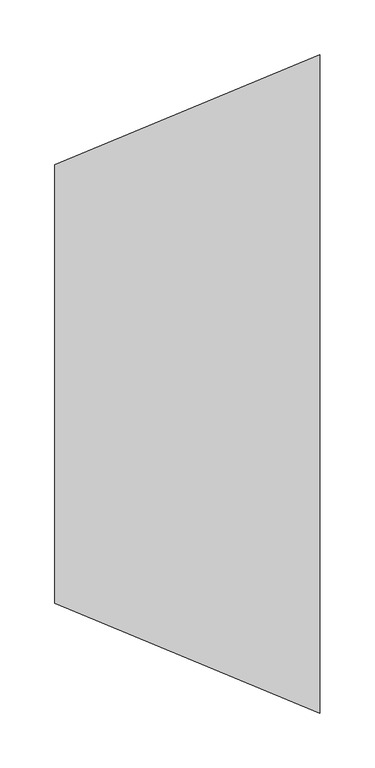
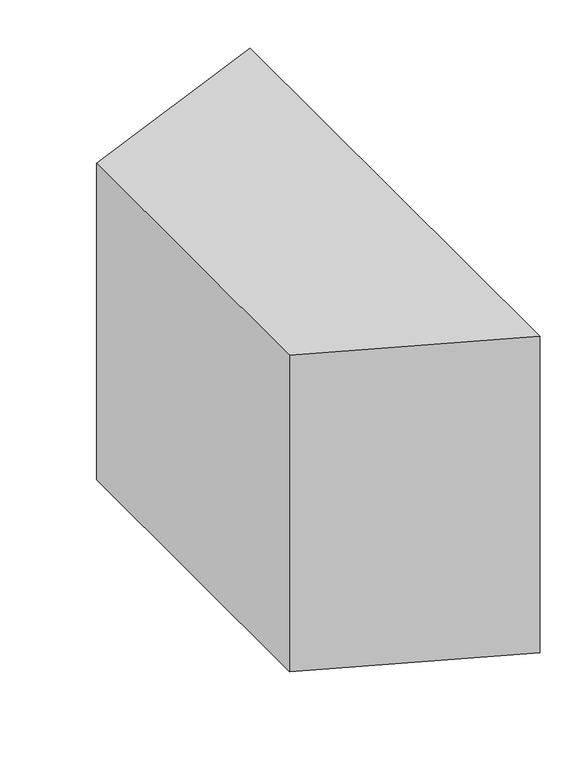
"""IFC4 building model written with IfcOpenShell, lengths in millimetres: duct fitting geometry, M_Transição retangular - Ângulo : 45 Graus."""

import ifcopenshell
import ifcopenshell.guid

model = None  # the IFC model being written
_history = None  # IfcOwnerHistory: only IFC2X3 demands one
_inside = {}  # id of a spatial element -> (the spatial element, [elements in it])
_under = {}  # id of a project, library or spatial element -> (it, [spatial elements below it])
_declared = {}  # id of a project -> (the project, [libraries it declares])
_typed = {}  # id of a type object -> (the type object, [elements of that type])
_made_of = {}  # id of a material, layer set ... -> (it, [elements and type objects made of it])


def new_model(schema):
    """Start an empty IFC model of exactly this schema.

    Asked for "IFC4X3", IfcOpenShell would pick the latest addendum, in which some entities
    have other attributes; the version numbers below select the first issue.
    IFC2X3 requires an IfcOwnerHistory on every rooted entity: one is made here for all.
    """
    global model, _history
    if schema == "IFC4X3":
        model = ifcopenshell.file(schema_version=(4, 3, 0, 0))
    else:
        model = ifcopenshell.file(schema=schema)
    _inside.clear()
    _under.clear()
    _declared.clear()
    _typed.clear()
    _made_of.clear()
    _history = None
    if model.schema == "IFC2X3":
        org = make("IfcOrganization", Name="unknown")
        user = make(
            "IfcPersonAndOrganization",
            ThePerson=make("IfcPerson", FamilyName="unknown"),
            TheOrganization=org,
        )
        app = make(
            "IfcApplication",
            ApplicationDeveloper=org,
            Version="unknown",
            ApplicationFullName="unknown",
            ApplicationIdentifier="unknown",
        )
        _history = make(
            "IfcOwnerHistory",
            OwningUser=user,
            OwningApplication=app,
            ChangeAction="ADDED",
            CreationDate=0,
        )
    return model


def make(cls, **values):
    """One entity of the class cls with the attributes given. An attribute that is None is left unset."""
    return model.create_entity(
        cls, **{name: value for name, value in values.items() if value is not None}
    )


def rooted(cls, **values):
    """An entity with a GlobalId (a new one), such as an element, a storey or a relation."""
    return make(cls, GlobalId=ifcopenshell.guid.new(), OwnerHistory=_history, **values)


def si_unit(unit_type, name, prefix=None):
    """IfcSIUnit, for example si_unit("LENGTHUNIT", "METRE", prefix="MILLI")."""
    return make("IfcSIUnit", UnitType=unit_type, Prefix=prefix, Name=name)


def assignment(units):
    """IfcUnitAssignment: the units of a project."""
    return None if units is None else make("IfcUnitAssignment", Units=units)


def point(xyz):
    """IfcCartesianPoint."""
    return None if xyz is None else make("IfcCartesianPoint", Coordinates=xyz)


def direction(xyz):
    """IfcDirection."""
    return None if xyz is None else make("IfcDirection", DirectionRatios=xyz)


def frame(location, z_axis=None, x_axis=None):
    """IfcAxis2Placement3D, a coordinate frame: its origin and axes. An axis left out is left unset."""
    return make(
        "IfcAxis2Placement3D",
        Location=point(location),
        Axis=direction(z_axis),
        RefDirection=direction(x_axis),
    )


def origin():
    """The frame at (0, 0, 0) with its axes left unset."""
    return frame((0.0, 0.0, 0.0))


def place(relative_to, where):
    """IfcLocalPlacement: puts the frame where relative to a parent placement (None: the world)."""
    return make(
        "IfcLocalPlacement", PlacementRelTo=relative_to, RelativePlacement=where
    )


def context(
    kind, dimensions, precision=None, world=None, true_north=None, identifier=None
):
    """IfcGeometricRepresentationContext, for example the 3D "Model" context."""
    return make(
        "IfcGeometricRepresentationContext",
        ContextIdentifier=identifier,
        ContextType=kind,
        CoordinateSpaceDimension=dimensions,
        Precision=precision,
        WorldCoordinateSystem=world,
        TrueNorth=true_north,
    )


def project(units=None, contexts=None):
    """IfcProject with its units and contexts."""
    return rooted(
        "IfcProject",
        Name="project",
        RepresentationContexts=contexts,
        UnitsInContext=assignment(units),
    )


def spatial(cls, under=None, at=None, **own):
    """A site, building, storey or space (cls), placed at a placement, below another one or the project."""
    s = rooted(cls, ObjectPlacement=at, **own)
    if under is not None:
        _under.setdefault(under.id(), (under, []))[1].append(s)
    return s


def polyline(points):
    """IfcPolyline through the points."""
    return make("IfcPolyline", Points=[point(p) for p in points])


def outline(outer, holes=None, kind="AREA"):
    """IfcArbitraryClosedProfileDef: a profile drawn as a closed curve; with holes, ...WithVoids."""
    if holes is None:
        return make("IfcArbitraryClosedProfileDef", ProfileType=kind, OuterCurve=outer)
    return make(
        "IfcArbitraryProfileDefWithVoids",
        ProfileType=kind,
        OuterCurve=outer,
        InnerCurves=holes,
    )


def extrude(swept, where, along, depth):
    """IfcExtrudedAreaSolid: the profile swept, set in the frame where, extruded along a direction by depth."""
    return make(
        "IfcExtrudedAreaSolid",
        SweptArea=swept,
        Position=where,
        ExtrudedDirection=direction(along),
        Depth=depth,
    )


def shape(context_of_items, identifier, shape_type, items):
    """IfcShapeRepresentation: the items that make up one representation, for example the "Body"."""
    return make(
        "IfcShapeRepresentation",
        ContextOfItems=context_of_items,
        RepresentationIdentifier=identifier,
        RepresentationType=shape_type,
        Items=items,
    )


def source(mapping_origin, context_of_items, identifier, shape_type, items):
    """IfcRepresentationMap: a shape defined once, which mapped items show again and again."""
    return make(
        "IfcRepresentationMap",
        MappingOrigin=mapping_origin,
        MappedRepresentation=shape(context_of_items, identifier, shape_type, items),
    )


def transform(
    local_origin,
    x_axis=None,
    y_axis=None,
    z_axis=None,
    scale=None,
    scale2=None,
    scale3=None,
    uniform=True,
):
    """IfcCartesianTransformationOperator3D, or its non-uniform kind. x_axis, y_axis, z_axis: its Axis1, 2, 3."""
    if uniform:
        return make(
            "IfcCartesianTransformationOperator3D",
            Axis1=direction(x_axis),
            Axis2=direction(y_axis),
            LocalOrigin=point(local_origin),
            Scale=scale,
            Axis3=direction(z_axis),
        )
    return make(
        "IfcCartesianTransformationOperator3DnonUniform",
        Axis1=direction(x_axis),
        Axis2=direction(y_axis),
        LocalOrigin=point(local_origin),
        Scale=scale,
        Axis3=direction(z_axis),
        Scale2=scale2,
        Scale3=scale3,
    )


def mapped(mapping_source, mapping_target):
    """IfcMappedItem: shows the shape of a source again, moved by a transform."""
    return make(
        "IfcMappedItem", MappingSource=mapping_source, MappingTarget=mapping_target
    )


def made_of(thing, what):
    """Note that an element or type object is made of a material, layer set ...; save() writes the relation."""
    if what is not None:
        _made_of.setdefault(what.id(), (what, []))[1].append(thing)
    return thing


def element(
    cls,
    number,
    at=None,
    inside=None,
    cuts=None,
    type_object=None,
    material=None,
    context=None,
    identifier="Body",
    shape_type=None,
    held_by="IfcProductDefinitionShape",
    body=None,
    shapes=None,
    **own,
):
    """One element of the class cls, such as IfcWall. Its Tag is "e" and its number.

    at: its placement. inside: the storey or other place that contains it. cuts: it is an
    opening in that element (IfcRelVoidsElement). A single representation is given by context,
    identifier, shape_type and body (its items); several are given by shapes. held_by: the class
    of the entity that holds the representations. save() writes the other relations.
    """
    e = rooted(cls, Tag="e%d" % number, ObjectPlacement=at, **own)
    if body is not None:
        shapes = [shape(context, identifier, shape_type, body)]
    if shapes is not None:
        e.Representation = make(held_by, Representations=shapes)
    if inside is not None:
        _inside.setdefault(inside.id(), (inside, []))[1].append(e)
    if cuts is not None:
        rooted(
            "IfcRelVoidsElement", RelatingBuildingElement=cuts, RelatedOpeningElement=e
        )
    if type_object is not None:
        _typed.setdefault(type_object.id(), (type_object, []))[1].append(e)
    return made_of(e, material)


def aggregate(whole, parts):
    """IfcRelAggregates: a whole, such as a stair, and the parts it consists of."""
    return rooted("IfcRelAggregates", RelatingObject=whole, RelatedObjects=parts)


def save(model, path):
    """Write the relations noted so far, then the file.

    IfcRelAggregates (storeys below a building ...), IfcRelContainedInSpatialStructure (elements
    in a storey), IfcRelDefinesByType, IfcRelAssociatesMaterial and IfcRelDeclares: one each for
    every whole, place, type object, material and project.
    """
    for whole, parts in _under.values():
        aggregate(whole, parts)
    for where, things in _inside.values():
        rooted(
            "IfcRelContainedInSpatialStructure",
            RelatedElements=things,
            RelatingStructure=where,
        )
    for kind, things in _typed.values():
        rooted("IfcRelDefinesByType", RelatedObjects=things, RelatingType=kind)
    for what, things in _made_of.values():
        rooted("IfcRelAssociatesMaterial", RelatedObjects=things, RelatingMaterial=what)
    for by, libraries in _declared.values():
        rooted("IfcRelDeclares", RelatingContext=by, RelatedDefinitions=libraries)
    model.write(path)


def duct_fitting_47d387f7(model_context):
    return source(origin(), model_context, "Body", "SweptSolid", [
        extrude(outline(polyline([(0.0, -200.0), (0.0, 200.0), (241.4213562, 300.0), (241.4213562, -300.0), (0.0, -200.0)])), frame((0.0, 0.0, -200.0), z_axis=(0.0, 0.0, 1.0), x_axis=(1.0, 0.0, 0.0)), (0.0, 0.0, 1.0), 400.0),
    ])


if __name__ == "__main__":
    model = new_model("IFC4")
    model_context = context("Model", 3, world=origin())
    ifc_project = project(units=[si_unit("LENGTHUNIT", "METRE", prefix="MILLI")], contexts=[model_context])
    site = spatial("IfcSite", under=ifc_project)
    building = spatial("IfcBuilding", under=site)
    placement = place(None, origin())
    duct_fitting_shape = duct_fitting_47d387f7(model_context)
    element("IfcDuctFitting", 1, ObjectType="M_Transição retangular - Ângulo : 45 Graus", at=placement, inside=building, context=model_context, shape_type="MappedRepresentation", body=[
        mapped(duct_fitting_shape, transform((0.0, 0.0, 0.0), x_axis=(1.0, 0.0, 0.0), y_axis=(0.0, 1.0, 0.0), z_axis=(0.0, 0.0, 1.0))),
    ])
    save(model, "model.ifc")
